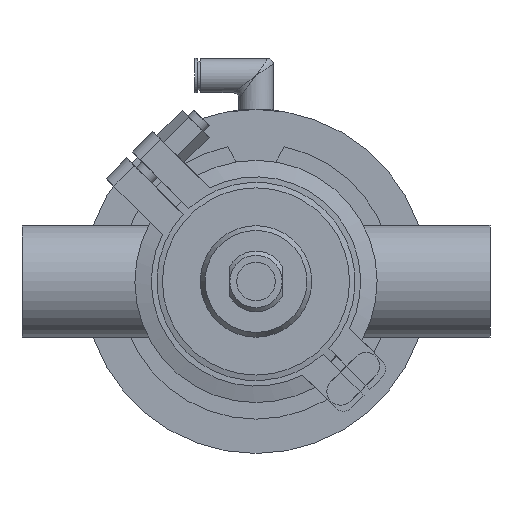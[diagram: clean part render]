
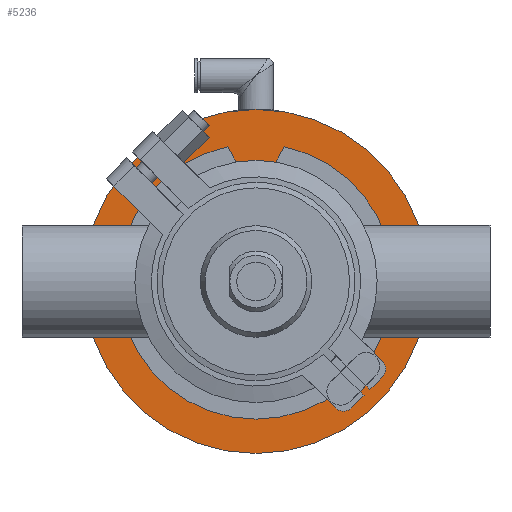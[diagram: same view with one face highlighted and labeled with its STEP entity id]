
A CAD part, front view. The second image highlights one B-rep face of the part: STEP entity #5236.
In plain terms, the highlighted planar face has unit normal (0, -1, 0).
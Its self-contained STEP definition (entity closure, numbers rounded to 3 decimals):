
#744 = CARTESIAN_POINT ( 'NONE',  ( 0., 0., 0. ) ) ;
#4062 = DIRECTION ( 'NONE',  ( 0., 1., 0. ) ) ;
#4704 = DIRECTION ( 'NONE',  ( 0., -1., 0. ) ) ;
#5236 = ADVANCED_FACE ( 'NONE', ( #5714 ), #17666, .F. ) ;
#5251 = CIRCLE ( 'NONE', #11642, 62.5 ) ;
#5483 = VERTEX_POINT ( 'NONE', #18661 ) ;
#5714 = FACE_OUTER_BOUND ( 'NONE', #8518, .T. ) ;
#7364 = DIRECTION ( 'NONE',  ( 0., 0., 1. ) ) ;
#8132 = DIRECTION ( 'NONE',  ( 0., 0., -1. ) ) ;
#8518 = EDGE_LOOP ( 'NONE', ( #16942 ) ) ;
#11642 = AXIS2_PLACEMENT_3D ( 'NONE', #12990, #4704, #8132 ) ;
#12828 = EDGE_CURVE ( 'NONE', #5483, #5483, #5251, .T. ) ;
#12990 = CARTESIAN_POINT ( 'NONE',  ( 0., 0., 0. ) ) ;
#16193 = AXIS2_PLACEMENT_3D ( 'NONE', #744, #4062, #7364 ) ;
#16942 = ORIENTED_EDGE ( 'NONE', *, *, #12828, .T. ) ;
#17666 = PLANE ( 'NONE',  #16193 ) ;
#18661 = CARTESIAN_POINT ( 'NONE',  ( 0., 0., -62.5 ) ) ;
